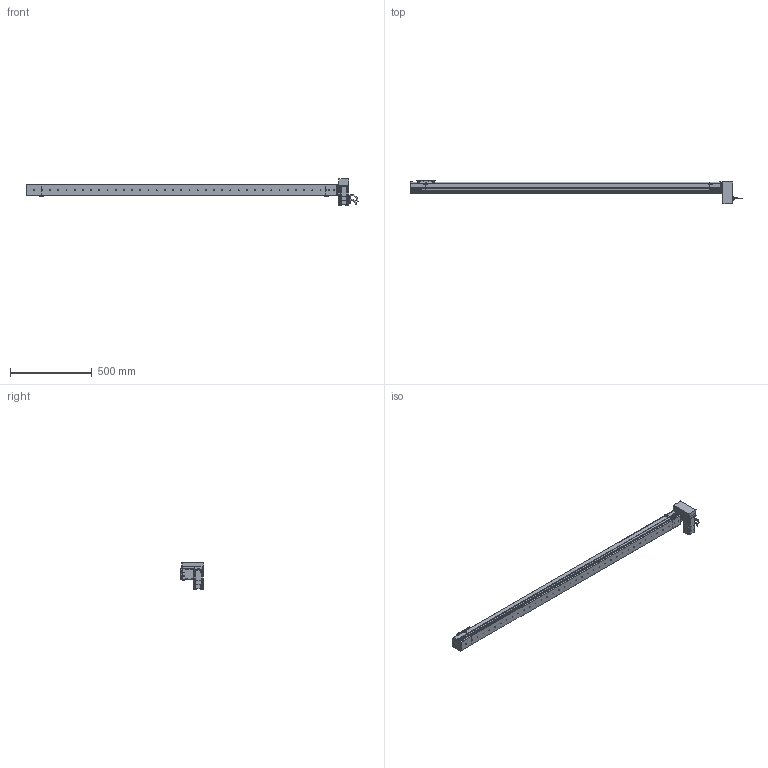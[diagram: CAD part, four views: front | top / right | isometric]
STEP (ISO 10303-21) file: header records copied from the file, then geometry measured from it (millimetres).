
FILE_DESCRIPTION (( 'STEP AP214' ), '1' );
FILE_NAME ('S07 CBN LU S1800.STEP', '2010-06-29T11:01:07', ( 'Conseil Régional Haute-Normandie' ), ( 'Conseil Régional Haute-Normandie' ), 'SwSTEP 2.0', 'SolidWorks 2010', '' );
FILE_SCHEMA (( 'AUTOMOTIVE_DESIGN' ));
Length unit declared in the file: millimetre
Products named in the file (31): chariot_Default; Chariot S07_Default; vis M5 L15_Default; plaque de serrage Tail_Default; Plaque de bout Tail_Default; Couvercle Tail_Default; Couvercle S07 S1800_Default; Corp S07 S1800_Default; Corp Tail_Default; Tail S07 Tail_Default; Rondelle de Serrage LU_Default; Support Moteur LU_Default; VisM3_Default; 60BLDC90A-640_Default; Conecteur2 60BLDC_Default; Conecteur 60BLDC_Default; Axe 60BLDC_Default; P1_Default; P4_Default; P3 90A_Default; P2 90A_Default; support chariot_Default; vis M5 L8_Default; Plaque de bout LU_Default; Cache Support Moteur LU_Default; Corp LU_Default; plaque de serrage LU_Default; Couvercle LU_Default; S07 CBN LU S1800; Head LU_Default
Assembly tree (71 placements, depth 4):
  S07 CBN LU S1800
    Head LU_Default
      vis M5 L15_Default  x16
      Rondelle de Serrage LU_Default  x3
      Couvercle LU_Default
      plaque de serrage LU_Default
      60BLDC90A-640_Default
        P2 90A_Default
        VisM3_Default  x12
        P1_Default
        Conecteur 60BLDC_Default
        Axe 60BLDC_Default
        Conecteur2 60BLDC_Default
        P3 90A_Default
        P4_Default
      Cache Support Moteur LU_Default
      Plaque de bout LU_Default
      Support Moteur LU_Default
      Corp LU_Default
    Corp S07 S1800_Default
      Corp S07 S1800_Default
      Couvercle S07 S1800_Default
    Chariot S07_Default
      vis M5 L8_Default  x8
      support chariot_Default
      chariot_Default
    Tail S07 Tail_Default
      vis M5 L15_Default  x6
      plaque de serrage Tail_Default
      Corp Tail_Default
      Plaque de bout Tail_Default
      Couvercle Tail_Default
Bounding box: 2025.7 x 142 x 162 mm (x, y, z)
Volume: 9821140.6 mm3; surface area: 1099199.9 mm2
Topology: 108 solids, 108 shells, 3958 faces, 9722 edges, 6260 vertices
Faces by surface type: plane 2272, bspline 756, cylinder 719, torus 112, cone 95, sphere 4
Entity records: 155113 total; most frequent: CARTESIAN_POINT 79877, ORIENTED_EDGE 14964, DIRECTION 11315, EDGE_CURVE 7482, VERTEX_POINT 4945, VECTOR 4817, LINE 4817, AXIS2_PLACEMENT_3D 3249
